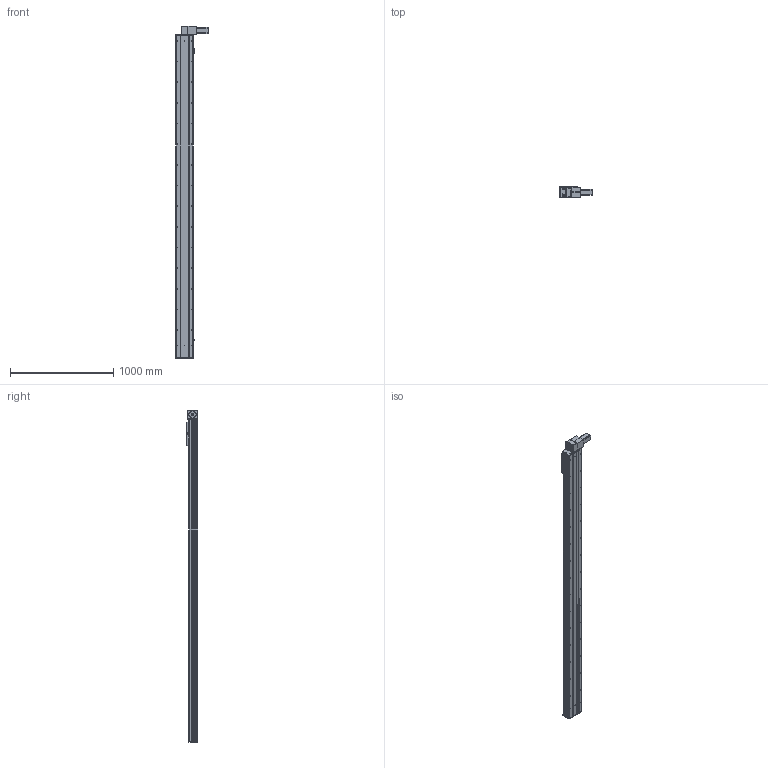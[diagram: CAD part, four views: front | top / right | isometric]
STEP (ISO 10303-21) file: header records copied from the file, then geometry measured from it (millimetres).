
FILE_DESCRIPTION (( 'STEP AP203' ), '1' );
FILE_NAME ('Y170CB-D105-S2800-BD-P400W.STEP', '2020-02-20T09:19:20', ( '微软用户' ), ( '微软中国' ), 'SwSTEP 2.0', 'SolidWorks 2017', '' );
FILE_SCHEMA (( 'CONFIG_CONTROL_DESIGN' ));
Length unit declared in the file: millimetre
Products named in the file (16): Y1埴倛裔; 70CB-耜裔啣-; 70B喘謫眊----; 70C--詩湍揤踡え-; 0B薊粣ん眊-400W--; 70CB--耜裔; Y170CB-D105-S2800-BD-P400W; 70C-雄赽釱-奻-; 0C--雄赽釱俋欶-170; B-源倛裔啣; 70CB-詩湍--; san松下电机400不带刹车----; Y100-135俋离換覜ん--; 70CB-掛极-; Y170CB-陔俋离換覜結え---; --70CB --喘謫眊楊擘啣-
Assembly tree (19 placements, depth 2):
  Y170CB-D105-S2800-BD-P400W
    B-源倛裔啣
    san松下电机400不带刹车----
    70CB-掛极-
    --70CB --喘謫眊楊擘啣-
    70CB-耜裔啣-  x2
    70C--詩湍揤踡え-  x2
    70CB--耜裔
    70C-雄赽釱-奻-
    0C--雄赽釱俋欶-170
    70CB-詩湍--
    Y100-135俋离換覜ん--  x3
    Y170CB-陔俋离換覜結え---
    Y1埴倛裔
    70B喘謫眊----
    0B薊粣ん眊-400W--
Bounding box: 313.5 x 107 x 3216 mm (x, y, z)
Volume: 13914093.2 mm3; surface area: 4896361.3 mm2
Topology: 19 solids, 19 shells, 992 faces, 2642 edges, 1752 vertices
Faces by surface type: cylinder 546, plane 422, cone 24
Entity records: 31347 total; most frequent: CARTESIAN_POINT 5866, DIRECTION 5103, ORIENTED_EDGE 4766, EDGE_CURVE 2383, AXIS2_PLACEMENT_3D 1901, VERTEX_POINT 1582, VECTOR 1301, LINE 1301
